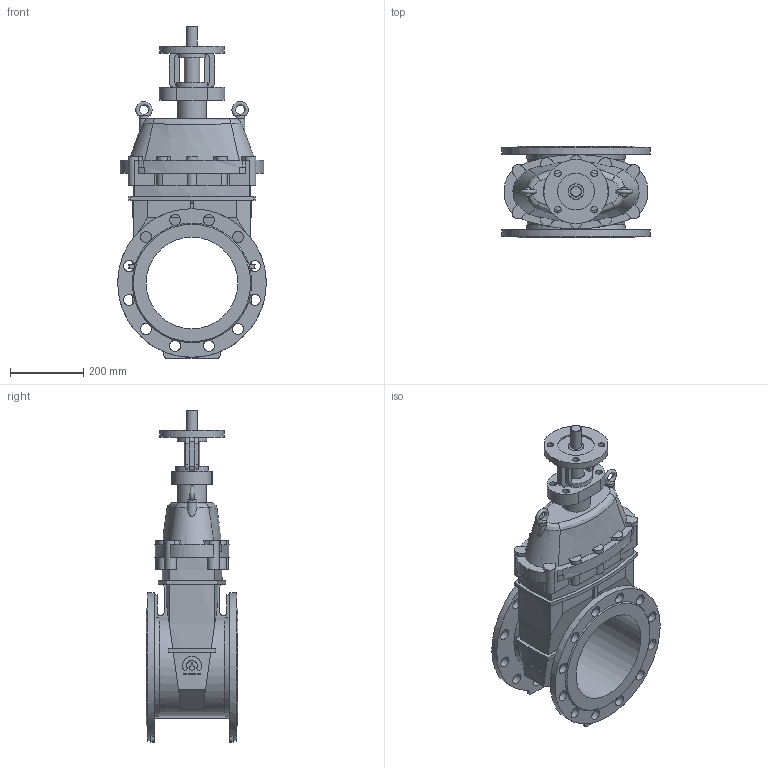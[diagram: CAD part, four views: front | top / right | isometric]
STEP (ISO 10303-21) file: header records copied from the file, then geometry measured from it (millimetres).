
FILE_DESCRIPTION(('STEP AP203'), '1');
FILE_NAME('Çàäâèæêà 47GV.M DN250 ñ ïåðåõîäîì ïîä ISO ôëàíåö', '', ('UNSPECIFIED'), ('UNSPECIFIED'), 'ASCON STEP Converter 1.6', 'ASCON Math Kernel', '');
FILE_SCHEMA(('CONFIG_CONTROL_DESIGN'));
Length unit declared in the file: millimetre
Bounding box: 405 x 250 x 905 mm (x, y, z)
Volume: 22777143.8 mm3; surface area: 1333619.4 mm2
Topology: 1 solids, 1 shells, 319 faces, 966 edges, 643 vertices
Faces by surface type: plane 150, cylinder 144, cone 13, bspline 10, torus 2
Full cylindrical faces by diameter (mm): 18 x8, 26 x2, 30 x26, 42 x1, 43 x1, 46 x1, 79 x1, 90 x1, 100 x1, 175 x1, 250 x1, 405 x2
Entity records: 35534 total; most frequent: CARTESIAN_POINT 24379, ORIENTED_EDGE 1822, DIRECTION 1736, EDGE_CURVE 911, AXIS2_PLACEMENT_3D 677, VERTEX_POINT 641, EDGE_LOOP 436, LINE 382
